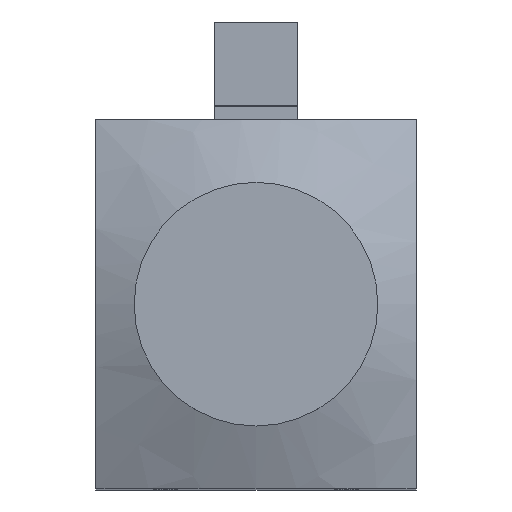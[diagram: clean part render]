
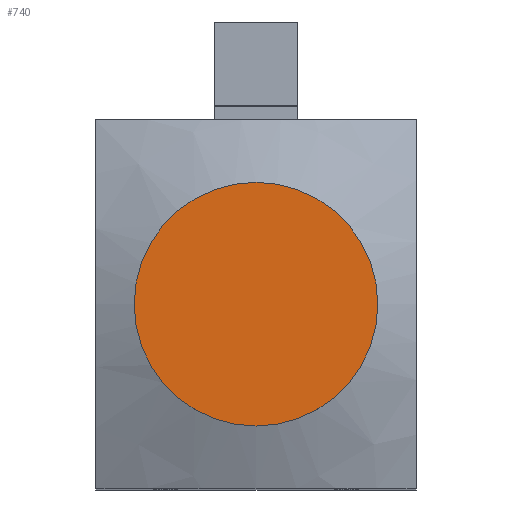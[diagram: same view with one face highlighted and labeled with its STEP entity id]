
A CAD part, top view. The second image highlights one B-rep face of the part: STEP entity #740.
In plain terms, the highlighted planar face has unit normal (0, 0, 1).
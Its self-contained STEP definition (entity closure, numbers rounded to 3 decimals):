
#740=ADVANCED_FACE('',(#1485),#1487,.T.);
#1485=FACE_BOUND('',#1486,.T.);
#1486=EDGE_LOOP('',(#1947));
#1487=PLANE('',#1488);
#1488=AXIS2_PLACEMENT_3D('',#1489,#1490,#1491);
#1489=CARTESIAN_POINT('',(0.,0.,263.));
#1490=DIRECTION('',(0.,0.,1.));
#1491=DIRECTION('',(1.,0.,0.));
#1947=ORIENTED_EDGE('',*,*,#2186,.T.);
#2186=EDGE_CURVE('',#2517,#2517,#2518,.F.);
#2517=VERTEX_POINT('',#3278);
#2518=CIRCLE('',#3279,35.);
#3278=CARTESIAN_POINT('',(0.,-35.,263.));
#3279=AXIS2_PLACEMENT_3D('',#3280,#3281,#3282);
#3280=CARTESIAN_POINT('',(0.,0.,263.));
#3281=DIRECTION('',(-0.,-0.,-1.));
#3282=DIRECTION('',(0.,-1.,0.));
